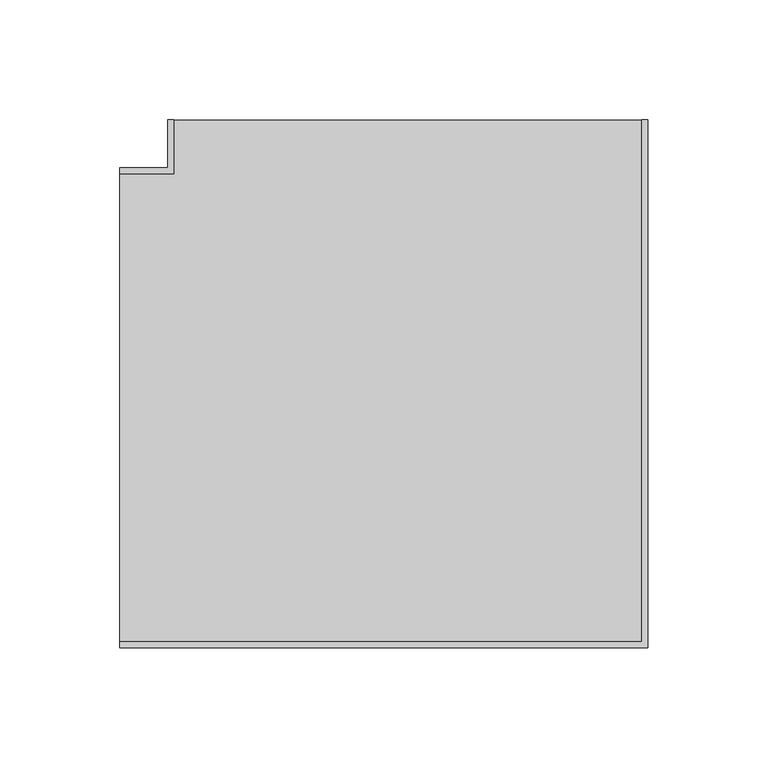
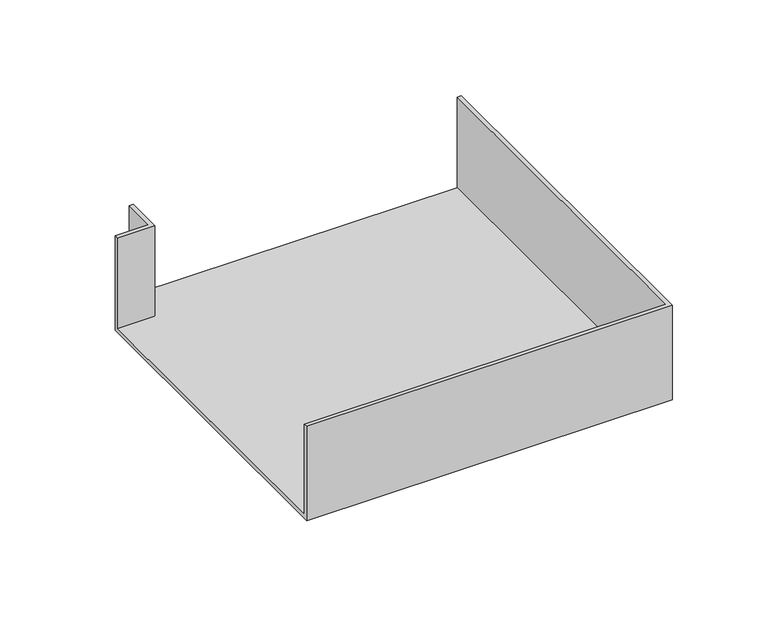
"""IFC4 building model written with IfcOpenShell, lengths in millimetres: cable carrier fitting geometry, КНС_УголПлоский NPAN_ILC_DKC : Угол плоский NPAN_DKC."""

from ifc_helpers import new_model, si_unit, origin, place, context, project, spatial, faceted_brep, source, transform, mapped, element, save


def cable_carrier_fitting_3be20063(model_context):
    return source(origin(), model_context, "Body", "Brep", [
        faceted_brep([(-120.0, 100.0, -30.0), (-120.0, -100.0, -30.0), (-120.0, -100.0, 30.0), (-120.0, -97.5, 30.0), (-120.0, -97.5, -27.5), (-120.0, 97.5, -27.5), (-120.0, 97.5, 30.0), (-120.0, 100.0, 30.0), (-100.0, 100.0, -30.0), (-100.0, 120.0, -30.0), (100.0, 120.0, -30.0), (100.0, -100.0, -30.0), (100.0, -100.0, 30.0), (100.0, 120.0, 30.0), (97.5, 120.0, 30.0), (97.5, -97.5, 30.0), (97.5, -97.5, -27.5), (97.5, 120.0, -27.5), (-97.5, 120.0, -27.5), (-97.5, 97.5, -27.5), (-97.5, 97.5, 30.0), (-97.5, 120.0, 30.0), (-100.0, 120.0, 30.0), (-100.0, 100.0, 30.0)], [[[0, 1, 2, 3, 4, 5, 6, 7]], [[1, 0, 8, 9, 10, 11]], [[2, 1, 11, 12]], [[3, 2, 12, 13, 14, 15]], [[4, 3, 15, 16]], [[5, 4, 16, 17, 18, 19]], [[6, 5, 19, 20]], [[7, 6, 20, 21, 22, 23]], [[0, 7, 23, 8]], [[9, 22, 21, 18, 17, 14, 13, 10]], [[12, 11, 10, 13]], [[16, 15, 14, 17]], [[20, 19, 18, 21]], [[8, 23, 22, 9]]]),
    ])


if __name__ == "__main__":
    model = new_model("IFC4")
    model_context = context("Model", 3, world=origin())
    ifc_project = project(units=[si_unit("LENGTHUNIT", "METRE", prefix="MILLI")], contexts=[model_context])
    site = spatial("IfcSite", under=ifc_project)
    building = spatial("IfcBuilding", under=site)
    placement = place(None, origin())
    cable_carrier_fitting_shape = cable_carrier_fitting_3be20063(model_context)
    element("IfcCableCarrierFitting", 1, ObjectType="КНС_УголПлоский NPAN_ILC_DKC : Угол плоский NPAN_DKC", at=placement, inside=building, context=model_context, shape_type="MappedRepresentation", body=[
        mapped(cable_carrier_fitting_shape, transform((0.0, 0.0, 0.0), x_axis=(1.0, 0.0, 0.0), y_axis=(0.0, 1.0, 0.0), z_axis=(0.0, 0.0, 1.0))),
    ])
    save(model, "model.ifc")
